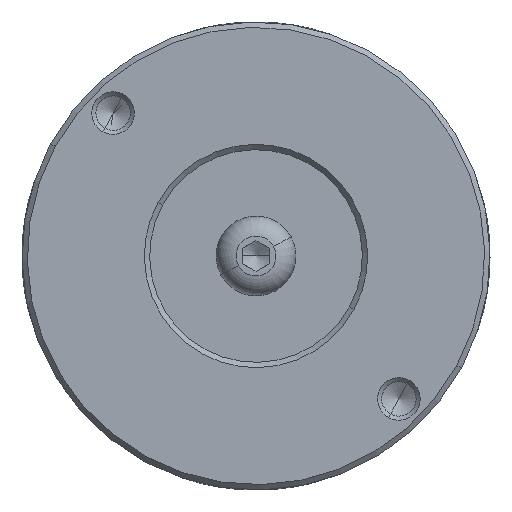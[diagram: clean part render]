
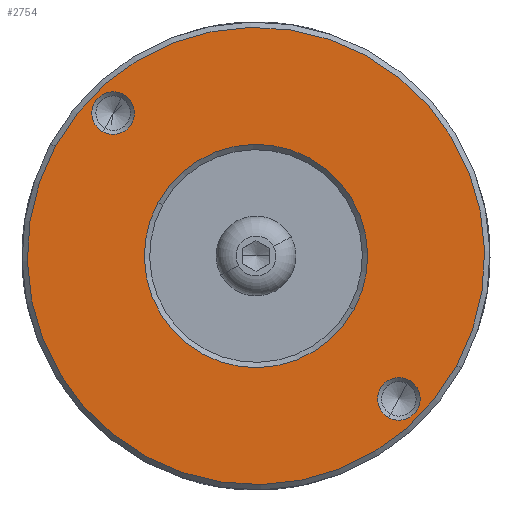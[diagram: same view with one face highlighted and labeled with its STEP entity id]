
A CAD part, front view. The second image highlights one B-rep face of the part: STEP entity #2754.
In plain terms, the highlighted planar face has unit normal (0, -1, 0).
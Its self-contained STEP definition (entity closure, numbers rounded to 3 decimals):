
#2265=AXIS2_PLACEMENT_3D('Circle Axis2P3D',#2263,#2264,$) ;
#2486=AXIS2_PLACEMENT_3D('Circle Axis2P3D',#2484,#2485,$) ;
#2694=AXIS2_PLACEMENT_3D('Plane Axis2P3D',#2691,#2692,#2693) ;
#2702=AXIS2_PLACEMENT_3D('Circle Axis2P3D',#2700,#2701,$) ;
#2711=AXIS2_PLACEMENT_3D('Circle Axis2P3D',#2709,#2710,$) ;
#2720=AXIS2_PLACEMENT_3D('Circle Axis2P3D',#2718,#2719,$) ;
#2729=AXIS2_PLACEMENT_3D('Circle Axis2P3D',#2727,#2728,$) ;
#2738=AXIS2_PLACEMENT_3D('Circle Axis2P3D',#2736,#2737,$) ;
#2747=AXIS2_PLACEMENT_3D('Circle Axis2P3D',#2745,#2746,$) ;
#2260=CARTESIAN_POINT('Vertex',(18.868,0.,-10.308)) ;
#2263=CARTESIAN_POINT('Axis2P3D Location',(0.,0.,0.)) ;
#2267=CARTESIAN_POINT('Vertex',(-18.868,0.,10.308)) ;
#2484=CARTESIAN_POINT('Axis2P3D Location',(0.,0.,0.)) ;
#2691=CARTESIAN_POINT('Axis2P3D Location',(-22.,0.,0.)) ;
#2700=CARTESIAN_POINT('Axis2P3D Location',(0.,0.,0.)) ;
#2704=CARTESIAN_POINT('Vertex',(9.215,0.,-5.034)) ;
#2706=CARTESIAN_POINT('Vertex',(-9.215,0.,5.034)) ;
#2709=CARTESIAN_POINT('Axis2P3D Location',(0.,0.,0.)) ;
#2718=CARTESIAN_POINT('Axis2P3D Location',(13.435,0.,-13.435)) ;
#2722=CARTESIAN_POINT('Vertex',(14.394,0.,-11.679)) ;
#2724=CARTESIAN_POINT('Vertex',(12.476,0.,-15.191)) ;
#2727=CARTESIAN_POINT('Axis2P3D Location',(13.435,0.,-13.435)) ;
#2736=CARTESIAN_POINT('Axis2P3D Location',(-13.435,0.,13.435)) ;
#2740=CARTESIAN_POINT('Vertex',(-14.394,0.,11.679)) ;
#2742=CARTESIAN_POINT('Vertex',(-12.476,0.,15.191)) ;
#2745=CARTESIAN_POINT('Axis2P3D Location',(-13.435,0.,13.435)) ;
#2264=DIRECTION('Axis2P3D Direction',(0.,1.,0.)) ;
#2485=DIRECTION('Axis2P3D Direction',(0.,1.,0.)) ;
#2692=DIRECTION('Axis2P3D Direction',(0.,1.,0.)) ;
#2693=DIRECTION('Axis2P3D XDirection',(1.,-0.,0.)) ;
#2701=DIRECTION('Axis2P3D Direction',(0.,1.,0.)) ;
#2710=DIRECTION('Axis2P3D Direction',(0.,1.,0.)) ;
#2719=DIRECTION('Axis2P3D Direction',(0.,1.,0.)) ;
#2728=DIRECTION('Axis2P3D Direction',(0.,1.,0.)) ;
#2737=DIRECTION('Axis2P3D Direction',(0.,1.,0.)) ;
#2746=DIRECTION('Axis2P3D Direction',(0.,1.,0.)) ;
#2697=ORIENTED_EDGE('',*,*,#2488,.F.) ;
#2698=ORIENTED_EDGE('',*,*,#2269,.F.) ;
#2715=ORIENTED_EDGE('',*,*,#2708,.T.) ;
#2716=ORIENTED_EDGE('',*,*,#2713,.T.) ;
#2733=ORIENTED_EDGE('',*,*,#2726,.T.) ;
#2734=ORIENTED_EDGE('',*,*,#2731,.T.) ;
#2751=ORIENTED_EDGE('',*,*,#2744,.T.) ;
#2752=ORIENTED_EDGE('',*,*,#2749,.T.) ;
#2717=FACE_BOUND('',#2714,.T.) ;
#2735=FACE_BOUND('',#2732,.T.) ;
#2753=FACE_BOUND('',#2750,.T.) ;
#2754=ADVANCED_FACE('COVER',(#2699,#2717,#2735,#2753),#2695,.F.) ;
#2266=CIRCLE('generated circle',#2265,21.5) ;
#2487=CIRCLE('generated circle',#2486,21.5) ;
#2703=CIRCLE('generated circle',#2702,10.5) ;
#2712=CIRCLE('generated circle',#2711,10.5) ;
#2721=CIRCLE('generated circle',#2720,2.001) ;
#2730=CIRCLE('generated circle',#2729,2.001) ;
#2739=CIRCLE('generated circle',#2738,2.001) ;
#2748=CIRCLE('generated circle',#2747,2.001) ;
#2269=EDGE_CURVE('',#2261,#2268,#2266,.T.) ;
#2488=EDGE_CURVE('',#2268,#2261,#2487,.T.) ;
#2708=EDGE_CURVE('',#2705,#2707,#2703,.T.) ;
#2713=EDGE_CURVE('',#2707,#2705,#2712,.T.) ;
#2726=EDGE_CURVE('',#2723,#2725,#2721,.T.) ;
#2731=EDGE_CURVE('',#2725,#2723,#2730,.T.) ;
#2744=EDGE_CURVE('',#2741,#2743,#2739,.T.) ;
#2749=EDGE_CURVE('',#2743,#2741,#2748,.T.) ;
#2696=EDGE_LOOP('',(#2697,#2698)) ;
#2714=EDGE_LOOP('',(#2715,#2716)) ;
#2732=EDGE_LOOP('',(#2733,#2734)) ;
#2750=EDGE_LOOP('',(#2751,#2752)) ;
#2699=FACE_OUTER_BOUND('',#2696,.T.) ;
#2695=PLANE('Plane',#2694) ;
#2261=VERTEX_POINT('',#2260) ;
#2268=VERTEX_POINT('',#2267) ;
#2705=VERTEX_POINT('',#2704) ;
#2707=VERTEX_POINT('',#2706) ;
#2723=VERTEX_POINT('',#2722) ;
#2725=VERTEX_POINT('',#2724) ;
#2741=VERTEX_POINT('',#2740) ;
#2743=VERTEX_POINT('',#2742) ;
